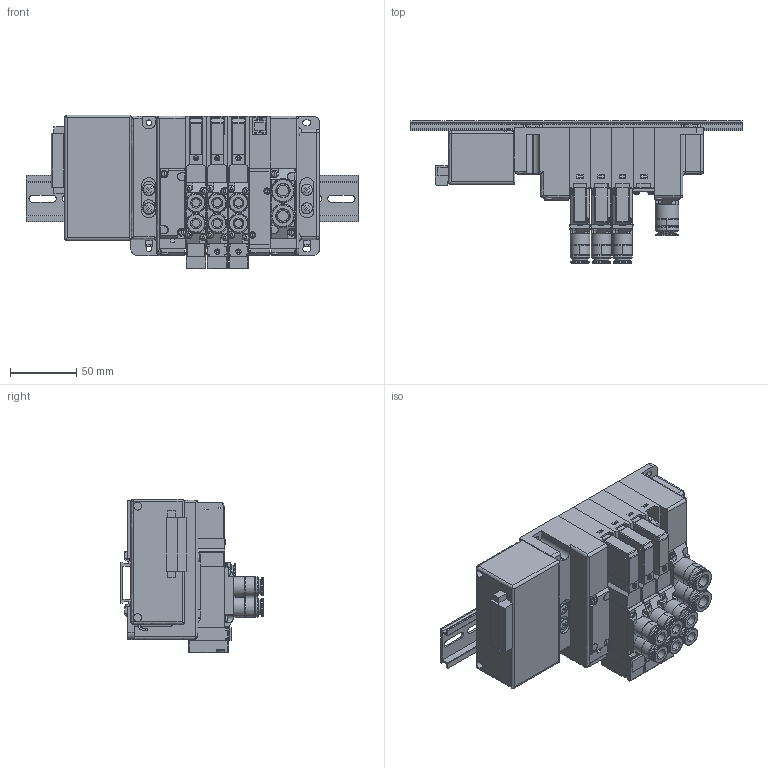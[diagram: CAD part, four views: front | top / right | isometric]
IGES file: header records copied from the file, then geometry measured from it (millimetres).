
Start section: ------------------------------------------------------------------------
Global section: file name: D:\ICADMX\tmp\trans3d_spg\CVICAD02.5220.F15M4XS-JR-B1-DR_17213.igs; native system: spGate; preprocessor: ver12.6.6; author: Unknown; organization: Unknown; date: 210712.185111; units: millimetre
Bounding box: 250 x 107 x 115.69 mm (x, y, z)
Volume: 1005557.3 mm3; surface area: 248543.6 mm2
Topology: 38 solids, 38 shells, 3451 faces, 8974 edges, 5774 vertices
Faces by surface type: bspline 3451
